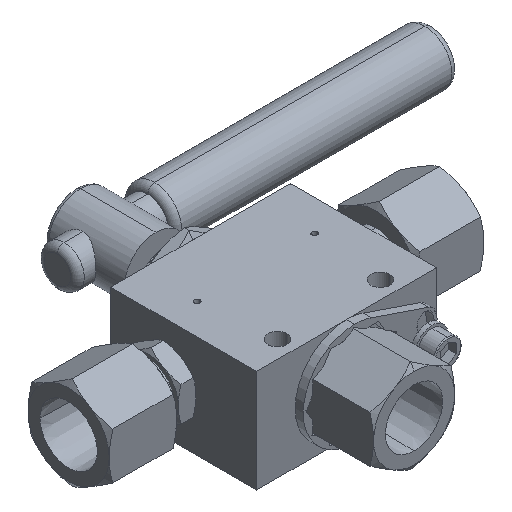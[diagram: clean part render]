
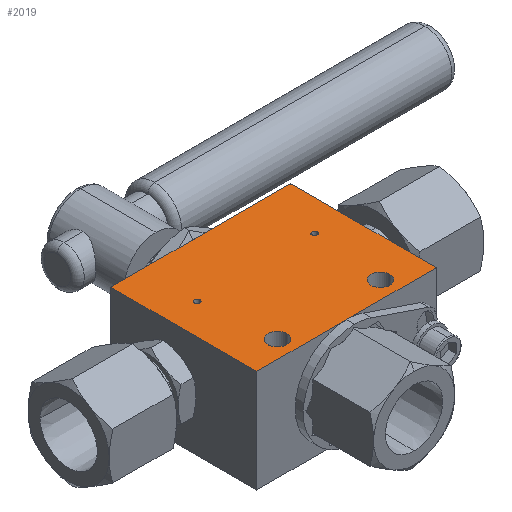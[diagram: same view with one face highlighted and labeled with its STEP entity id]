
A CAD part, isometric view. The second image highlights one B-rep face of the part: STEP entity #2019.
In plain terms, the highlighted planar face has unit normal (0, 0, 1).
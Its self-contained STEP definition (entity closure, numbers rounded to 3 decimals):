
#60 = CIRCLE ( 'NONE', #1902, 3.5 ) ;
#157 = CARTESIAN_POINT ( 'NONE',  ( -21.75, 6.5, 19. ) ) ;
#216 = DIRECTION ( 'NONE',  ( -1., 0., 0. ) ) ;
#252 = FACE_BOUND ( 'NONE', #3060, .T. ) ;
#293 = VERTEX_POINT ( 'NONE', #6390 ) ;
#309 = CARTESIAN_POINT ( 'NONE',  ( -15.55, -20.5, 19. ) ) ;
#311 = DIRECTION ( 'NONE',  ( 1., 0., 0. ) ) ;
#399 = CARTESIAN_POINT ( 'NONE',  ( -33.25, 27., 19. ) ) ;
#431 = EDGE_CURVE ( 'NONE', #5032, #1459, #1562, .T. ) ;
#532 = DIRECTION ( 'NONE',  ( 1., 0., 0. ) ) ;
#552 = DIRECTION ( 'NONE',  ( -1., 0., 0. ) ) ;
#629 = LINE ( 'NONE', #6039, #3026 ) ;
#669 = VERTEX_POINT ( 'NONE', #309 ) ;
#878 = AXIS2_PLACEMENT_3D ( 'NONE', #7186, #3887, #1167 ) ;
#881 = VERTEX_POINT ( 'NONE', #5404 ) ;
#920 = CARTESIAN_POINT ( 'NONE',  ( 15.55, -20.5, 19. ) ) ;
#929 = CARTESIAN_POINT ( 'NONE',  ( -33.25, -27., 19. ) ) ;
#952 = CARTESIAN_POINT ( 'NONE',  ( 33.25, 27., 19. ) ) ;
#965 = DIRECTION ( 'NONE',  ( 0., 0., 1. ) ) ;
#1026 = CARTESIAN_POINT ( 'NONE',  ( 20.75, 6.5, 19. ) ) ;
#1074 = ORIENTED_EDGE ( 'NONE', *, *, #4871, .F. ) ;
#1167 = DIRECTION ( 'NONE',  ( 1., 0., 0. ) ) ;
#1209 = EDGE_LOOP ( 'NONE', ( #6887, #6491 ) ) ;
#1219 = ORIENTED_EDGE ( 'NONE', *, *, #6392, .T. ) ;
#1459 = VERTEX_POINT ( 'NONE', #7238 ) ;
#1468 = CARTESIAN_POINT ( 'NONE',  ( 33.25, -27., 19. ) ) ;
#1562 = CIRCLE ( 'NONE', #878, 1. ) ;
#1569 = ORIENTED_EDGE ( 'NONE', *, *, #3042, .F. ) ;
#1751 = EDGE_CURVE ( 'NONE', #7439, #669, #4622, .T. ) ;
#1859 = LINE ( 'NONE', #7179, #3386 ) ;
#1902 = AXIS2_PLACEMENT_3D ( 'NONE', #3613, #965, #6327 ) ;
#2019 = ADVANCED_FACE ( 'NONE', ( #6948, #2243, #4303, #252, #5668 ), #6284, .F. ) ;
#2020 = EDGE_CURVE ( 'NONE', #2090, #3035, #6028, .T. ) ;
#2090 = VERTEX_POINT ( 'NONE', #2596 ) ;
#2098 = ORIENTED_EDGE ( 'NONE', *, *, #6330, .T. ) ;
#2243 = FACE_BOUND ( 'NONE', #1209, .T. ) ;
#2293 = DIRECTION ( 'NONE',  ( 1., 0., 0. ) ) ;
#2337 = VERTEX_POINT ( 'NONE', #952 ) ;
#2377 = DIRECTION ( 'NONE',  ( 0., 0., 1. ) ) ;
#2596 = CARTESIAN_POINT ( 'NONE',  ( 22.55, -20.5, 19. ) ) ;
#2631 = DIRECTION ( 'NONE',  ( 1., 0., 0. ) ) ;
#2761 = DIRECTION ( 'NONE',  ( 1., 0., 0. ) ) ;
#2832 = EDGE_CURVE ( 'NONE', #293, #2337, #3547, .T. ) ;
#3019 = CIRCLE ( 'NONE', #7929, 1. ) ;
#3026 = VECTOR ( 'NONE', #3939, 1000. ) ;
#3035 = VERTEX_POINT ( 'NONE', #920 ) ;
#3042 = EDGE_CURVE ( 'NONE', #669, #7439, #60, .T. ) ;
#3060 = EDGE_LOOP ( 'NONE', ( #4237, #1569 ) ) ;
#3064 = CARTESIAN_POINT ( 'NONE',  ( -22.55, -20.5, 19. ) ) ;
#3076 = AXIS2_PLACEMENT_3D ( 'NONE', #8572, #7222, #7832 ) ;
#3171 = CIRCLE ( 'NONE', #5676, 1. ) ;
#3177 = EDGE_LOOP ( 'NONE', ( #1074, #4908 ) ) ;
#3182 = VECTOR ( 'NONE', #552, 1000. ) ;
#3386 = VECTOR ( 'NONE', #532, 1000. ) ;
#3547 = LINE ( 'NONE', #1468, #8303 ) ;
#3591 = DIRECTION ( 'NONE',  ( 1., 0., 0. ) ) ;
#3595 = CIRCLE ( 'NONE', #8499, 1. ) ;
#3613 = CARTESIAN_POINT ( 'NONE',  ( -19.05, -20.5, 19. ) ) ;
#3738 = EDGE_CURVE ( 'NONE', #3035, #2090, #7805, .T. ) ;
#3766 = EDGE_CURVE ( 'NONE', #2337, #4335, #8637, .T. ) ;
#3797 = EDGE_CURVE ( 'NONE', #1459, #5032, #3595, .T. ) ;
#3865 = CARTESIAN_POINT ( 'NONE',  ( -33.25, 27., 19. ) ) ;
#3887 = DIRECTION ( 'NONE',  ( 0., 0., 1. ) ) ;
#3939 = DIRECTION ( 'NONE',  ( 0., -1., 0. ) ) ;
#3953 = VECTOR ( 'NONE', #311, 1000. ) ;
#4013 = CARTESIAN_POINT ( 'NONE',  ( 22.75, 6.5, 19. ) ) ;
#4120 = VERTEX_POINT ( 'NONE', #4013 ) ;
#4237 = ORIENTED_EDGE ( 'NONE', *, *, #1751, .F. ) ;
#4248 = VERTEX_POINT ( 'NONE', #1026 ) ;
#4303 = FACE_BOUND ( 'NONE', #3177, .T. ) ;
#4335 = VERTEX_POINT ( 'NONE', #399 ) ;
#4369 = ORIENTED_EDGE ( 'NONE', *, *, #3766, .T. ) ;
#4425 = CARTESIAN_POINT ( 'NONE',  ( -20.75, 6.5, 19. ) ) ;
#4461 = ORIENTED_EDGE ( 'NONE', *, *, #3738, .F. ) ;
#4479 = EDGE_LOOP ( 'NONE', ( #7357, #4369, #6130, #1219, #2098 ) ) ;
#4622 = CIRCLE ( 'NONE', #3076, 3.5 ) ;
#4655 = DIRECTION ( 'NONE',  ( 0., 0., 1. ) ) ;
#4657 = DIRECTION ( 'NONE',  ( 0., 0., 1. ) ) ;
#4871 = EDGE_CURVE ( 'NONE', #4248, #4120, #3171, .T. ) ;
#4905 = EDGE_CURVE ( 'NONE', #4120, #4248, #3019, .T. ) ;
#4908 = ORIENTED_EDGE ( 'NONE', *, *, #4905, .F. ) ;
#5018 = LINE ( 'NONE', #929, #3953 ) ;
#5032 = VERTEX_POINT ( 'NONE', #4425 ) ;
#5173 = EDGE_CURVE ( 'NONE', #4335, #881, #629, .T. ) ;
#5404 = CARTESIAN_POINT ( 'NONE',  ( -33.25, -27., 19. ) ) ;
#5668 = FACE_BOUND ( 'NONE', #7766, .T. ) ;
#5676 = AXIS2_PLACEMENT_3D ( 'NONE', #8639, #4657, #2761 ) ;
#5925 = CARTESIAN_POINT ( 'NONE',  ( 0., -27., 19. ) ) ;
#6028 = CIRCLE ( 'NONE', #7994, 3.5 ) ;
#6039 = CARTESIAN_POINT ( 'NONE',  ( -33.25, -27., 19. ) ) ;
#6130 = ORIENTED_EDGE ( 'NONE', *, *, #5173, .T. ) ;
#6131 = DIRECTION ( 'NONE',  ( 0., 0., 1. ) ) ;
#6218 = DIRECTION ( 'NONE',  ( 0., 1., 0. ) ) ;
#6262 = DIRECTION ( 'NONE',  ( 0., 0., 1. ) ) ;
#6284 = PLANE ( 'NONE',  #7860 ) ;
#6327 = DIRECTION ( 'NONE',  ( 1., 0., 0. ) ) ;
#6330 = EDGE_CURVE ( 'NONE', #8385, #293, #5018, .T. ) ;
#6390 = CARTESIAN_POINT ( 'NONE',  ( 33.25, -27., 19. ) ) ;
#6392 = EDGE_CURVE ( 'NONE', #881, #8385, #1859, .T. ) ;
#6491 = ORIENTED_EDGE ( 'NONE', *, *, #431, .F. ) ;
#6588 = CARTESIAN_POINT ( 'NONE',  ( 19.05, -20.5, 19. ) ) ;
#6887 = ORIENTED_EDGE ( 'NONE', *, *, #3797, .F. ) ;
#6911 = CARTESIAN_POINT ( 'NONE',  ( 0., 0., 19. ) ) ;
#6948 = FACE_OUTER_BOUND ( 'NONE', #4479, .T. ) ;
#6961 = AXIS2_PLACEMENT_3D ( 'NONE', #6588, #4655, #2631 ) ;
#6976 = CARTESIAN_POINT ( 'NONE',  ( 21.75, 6.5, 19. ) ) ;
#7179 = CARTESIAN_POINT ( 'NONE',  ( -33.25, -27., 19. ) ) ;
#7186 = CARTESIAN_POINT ( 'NONE',  ( -21.75, 6.5, 19. ) ) ;
#7222 = DIRECTION ( 'NONE',  ( 0., 0., 1. ) ) ;
#7238 = CARTESIAN_POINT ( 'NONE',  ( -22.75, 6.5, 19. ) ) ;
#7357 = ORIENTED_EDGE ( 'NONE', *, *, #2832, .T. ) ;
#7439 = VERTEX_POINT ( 'NONE', #3064 ) ;
#7766 = EDGE_LOOP ( 'NONE', ( #4461, #7972 ) ) ;
#7805 = CIRCLE ( 'NONE', #6961, 3.5 ) ;
#7832 = DIRECTION ( 'NONE',  ( 1., 0., 0. ) ) ;
#7860 = AXIS2_PLACEMENT_3D ( 'NONE', #6911, #8257, #216 ) ;
#7929 = AXIS2_PLACEMENT_3D ( 'NONE', #6976, #6131, #8201 ) ;
#7972 = ORIENTED_EDGE ( 'NONE', *, *, #2020, .F. ) ;
#7994 = AXIS2_PLACEMENT_3D ( 'NONE', #8302, #2377, #2293 ) ;
#8201 = DIRECTION ( 'NONE',  ( 1., 0., 0. ) ) ;
#8257 = DIRECTION ( 'NONE',  ( 0., 0., -1. ) ) ;
#8302 = CARTESIAN_POINT ( 'NONE',  ( 19.05, -20.5, 19. ) ) ;
#8303 = VECTOR ( 'NONE', #6218, 1000. ) ;
#8385 = VERTEX_POINT ( 'NONE', #5925 ) ;
#8499 = AXIS2_PLACEMENT_3D ( 'NONE', #157, #6262, #3591 ) ;
#8572 = CARTESIAN_POINT ( 'NONE',  ( -19.05, -20.5, 19. ) ) ;
#8637 = LINE ( 'NONE', #3865, #3182 ) ;
#8639 = CARTESIAN_POINT ( 'NONE',  ( 21.75, 6.5, 19. ) ) ;
